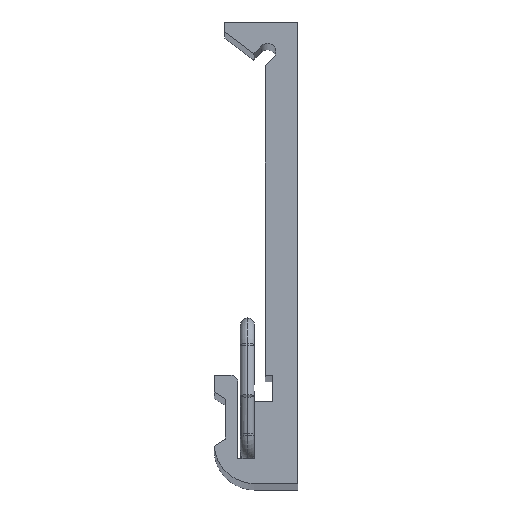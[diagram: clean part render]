
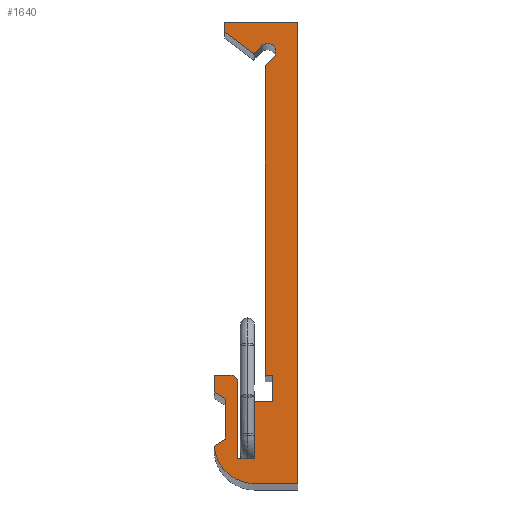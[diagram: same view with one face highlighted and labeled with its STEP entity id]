
A CAD part, top view. The second image highlights one B-rep face of the part: STEP entity #1640.
In plain terms, the highlighted planar face has unit normal (0, 0, 1).
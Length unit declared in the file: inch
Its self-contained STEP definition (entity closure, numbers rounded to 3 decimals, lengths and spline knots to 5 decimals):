
#70=DIRECTION('',(1.,0.,0.));
#71=VECTOR('',#70,0.183);
#72=CARTESIAN_POINT('',(-0.125,0.,15.7485));
#73=LINE('',#72,#71);
#78=CARTESIAN_POINT('',(-0.125,0.17,15.7485));
#79=DIRECTION('',(0.,0.,1.));
#80=DIRECTION('',(-0.997,-0.075,0.));
#81=AXIS2_PLACEMENT_3D('',#78,#79,#80);
#83=DIRECTION('',(-0.848,-0.53,0.));
#84=VECTOR('',#83,0.05604);
#85=CARTESIAN_POINT('',(-0.247,0.187,15.7485));
#86=LINE('',#85,#84);
#87=DIRECTION('',(0.,-1.,0.));
#88=VECTOR('',#87,0.168);
#89=CARTESIAN_POINT('',(-0.247,0.355,15.7485));
#90=LINE('',#89,#88);
#91=DIRECTION('',(0.848,-0.53,0.));
#92=VECTOR('',#91,0.0566);
#93=CARTESIAN_POINT('',(-0.295,0.385,15.7485));
#94=LINE('',#93,#92);
#95=DIRECTION('',(0.,-1.,0.));
#96=VECTOR('',#95,0.07);
#97=CARTESIAN_POINT('',(-0.295,0.455,15.7485));
#98=LINE('',#97,#96);
#99=DIRECTION('',(-1.,0.,0.));
#100=VECTOR('',#99,0.07);
#101=CARTESIAN_POINT('',(-0.225,0.455,15.7485));
#102=LINE('',#101,#100);
#103=CARTESIAN_POINT('',(-0.225,0.425,15.7485));
#104=DIRECTION('',(0.,0.,1.));
#105=DIRECTION('',(1.,0.,0.));
#106=AXIS2_PLACEMENT_3D('',#103,#104,#105);
#108=DIRECTION('',(0.,1.,0.));
#109=VECTOR('',#108,0.32);
#110=CARTESIAN_POINT('',(-0.195,0.105,15.7485));
#111=LINE('',#110,#109);
#112=DIRECTION('',(-1.,0.,0.));
#113=VECTOR('',#112,0.07);
#114=CARTESIAN_POINT('',(-0.125,0.105,15.7485));
#115=LINE('',#114,#113);
#116=DIRECTION('',(0.,-1.,0.));
#117=VECTOR('',#116,0.24);
#118=CARTESIAN_POINT('',(-0.125,0.345,15.7485));
#119=LINE('',#118,#117);
#120=DIRECTION('',(-1.,0.,0.));
#121=VECTOR('',#120,0.077);
#122=CARTESIAN_POINT('',(-0.048,0.345,15.7485));
#123=LINE('',#122,#121);
#124=DIRECTION('',(0.,-1.,0.));
#125=VECTOR('',#124,0.11);
#126=CARTESIAN_POINT('',(-0.048,0.455,15.7485));
#127=LINE('',#126,#125);
#128=DIRECTION('',(1.,0.,0.));
#129=VECTOR('',#128,0.032);
#130=CARTESIAN_POINT('',(-0.08,0.455,15.7485));
#131=LINE('',#130,#129);
#132=DIRECTION('',(0.,-1.,0.));
#133=VECTOR('',#132,1.3025);
#134=CARTESIAN_POINT('',(-0.08,1.7575,15.7485));
#135=LINE('',#134,#133);
#136=DIRECTION('',(-0.707,-0.707,0.));
#137=VECTOR('',#136,0.04914);
#138=CARTESIAN_POINT('',(-0.04525,1.79225,15.7485));
#139=LINE('',#138,#137);
#140=CARTESIAN_POINT('',(-0.07,1.817,15.7485));
#141=DIRECTION('',(0.,0.,-1.));
#142=DIRECTION('',(-0.707,0.707,0.));
#143=AXIS2_PLACEMENT_3D('',#140,#141,#142);
#145=DIRECTION('',(0.707,0.707,0.));
#146=VECTOR('',#145,0.0464);
#147=CARTESIAN_POINT('',(-0.12756,1.80894,15.7485));
#148=LINE('',#147,#146);
#149=DIRECTION('',(0.796,-0.605,0.));
#150=VECTOR('',#149,0.15379);
#151=CARTESIAN_POINT('',(-0.25,1.902,15.7485));
#152=LINE('',#151,#150);
#153=DIRECTION('',(0.,-1.,0.));
#154=VECTOR('',#153,0.04);
#155=CARTESIAN_POINT('',(-0.25,1.942,15.7485));
#156=LINE('',#155,#154);
#161=DIRECTION('',(-1.,0.,0.));
#162=VECTOR('',#161,0.308);
#163=CARTESIAN_POINT('',(0.058,1.942,15.7485));
#164=LINE('',#163,#162);
#165=DIRECTION('',(0.,-1.,0.));
#166=VECTOR('',#165,1.942);
#167=CARTESIAN_POINT('',(0.058,1.942,15.7485));
#168=LINE('',#167,#166);
#1331=CARTESIAN_POINT('',(-0.12756,1.80894,
15.7485));
#1332=CARTESIAN_POINT('',(-0.09475,1.84175,
15.7485));
#1333=VERTEX_POINT('',#1331);
#1334=VERTEX_POINT('',#1332);
#1335=CARTESIAN_POINT('',(-0.04525,1.79225,
15.7485));
#1336=VERTEX_POINT('',#1335);
#1337=CARTESIAN_POINT('',(-0.08,1.7575,15.7485));
#1338=VERTEX_POINT('',#1337);
#1339=CARTESIAN_POINT('',(-0.08,0.455,15.7485));
#1340=VERTEX_POINT('',#1339);
#1341=CARTESIAN_POINT('',(-0.048,0.455,15.7485));
#1342=VERTEX_POINT('',#1341);
#1343=CARTESIAN_POINT('',(-0.048,0.345,15.7485));
#1344=VERTEX_POINT('',#1343);
#1345=CARTESIAN_POINT('',(-0.125,0.345,15.7485));
#1346=VERTEX_POINT('',#1345);
#1347=CARTESIAN_POINT('',(-0.125,0.105,15.7485));
#1348=VERTEX_POINT('',#1347);
#1349=CARTESIAN_POINT('',(-0.195,0.105,15.7485));
#1350=VERTEX_POINT('',#1349);
#1351=CARTESIAN_POINT('',(-0.195,0.425,15.7485));
#1352=VERTEX_POINT('',#1351);
#1353=CARTESIAN_POINT('',(-0.225,0.455,15.7485));
#1354=VERTEX_POINT('',#1353);
#1355=CARTESIAN_POINT('',(-0.295,0.455,15.7485));
#1356=VERTEX_POINT('',#1355);
#1357=CARTESIAN_POINT('',(-0.295,0.385,15.7485));
#1358=VERTEX_POINT('',#1357);
#1359=CARTESIAN_POINT('',(-0.247,0.355,15.7485));
#1360=VERTEX_POINT('',#1359);
#1361=CARTESIAN_POINT('',(-0.247,0.187,15.7485));
#1362=VERTEX_POINT('',#1361);
#1363=CARTESIAN_POINT('',(-0.29452,0.1573,
15.7485));
#1364=VERTEX_POINT('',#1363);
#1365=CARTESIAN_POINT('',(-0.125,0.,15.7485));
#1366=VERTEX_POINT('',#1365);
#1367=CARTESIAN_POINT('',(-0.25,1.942,15.7485));
#1368=CARTESIAN_POINT('',(-0.25,1.902,15.7485));
#1369=VERTEX_POINT('',#1367);
#1370=VERTEX_POINT('',#1368);
#1479=CARTESIAN_POINT('',(0.058,1.942,15.7485));
#1480=CARTESIAN_POINT('',(0.058,0.,15.7485));
#1481=VERTEX_POINT('',#1479);
#1482=VERTEX_POINT('',#1480);
#1590=CARTESIAN_POINT('',(0.,0.,15.7485));
#1591=DIRECTION('',(0.,0.,1.));
#1592=DIRECTION('',(1.,0.,0.));
#1593=AXIS2_PLACEMENT_3D('',#1590,#1591,#1592);
#1594=PLANE('',#1593);
#1596=ORIENTED_EDGE('',*,*,#1595,.F.);
#1598=ORIENTED_EDGE('',*,*,#1597,.T.);
#1599=ORIENTED_EDGE('',*,*,#1580,.F.);
#1601=ORIENTED_EDGE('',*,*,#1600,.F.);
#1603=ORIENTED_EDGE('',*,*,#1602,.F.);
#1605=ORIENTED_EDGE('',*,*,#1604,.F.);
#1607=ORIENTED_EDGE('',*,*,#1606,.F.);
#1609=ORIENTED_EDGE('',*,*,#1608,.F.);
#1611=ORIENTED_EDGE('',*,*,#1610,.F.);
#1613=ORIENTED_EDGE('',*,*,#1612,.F.);
#1615=ORIENTED_EDGE('',*,*,#1614,.F.);
#1617=ORIENTED_EDGE('',*,*,#1616,.F.);
#1619=ORIENTED_EDGE('',*,*,#1618,.F.);
#1621=ORIENTED_EDGE('',*,*,#1620,.F.);
#1623=ORIENTED_EDGE('',*,*,#1622,.F.);
#1625=ORIENTED_EDGE('',*,*,#1624,.F.);
#1627=ORIENTED_EDGE('',*,*,#1626,.F.);
#1629=ORIENTED_EDGE('',*,*,#1628,.F.);
#1631=ORIENTED_EDGE('',*,*,#1630,.F.);
#1633=ORIENTED_EDGE('',*,*,#1632,.F.);
#1635=ORIENTED_EDGE('',*,*,#1634,.F.);
#1637=ORIENTED_EDGE('',*,*,#1636,.F.);
#1638=EDGE_LOOP('',(#1596,#1598,#1599,#1601,#1603,#1605,#1607,#1609,#1611,#1613,
#1615,#1617,#1619,#1621,#1623,#1625,#1627,#1629,#1631,#1633,#1635,#1637));
#1639=FACE_OUTER_BOUND('',#1638,.F.);
#1640=ADVANCED_FACE('',(#1639),#1594,.T.);
#82=CIRCLE('',#81,0.17);
#107=CIRCLE('',#106,0.03);
#144=CIRCLE('',#143,0.035);
#1580=EDGE_CURVE('',#1366,#1482,#73,.T.);
#1595=EDGE_CURVE('',#1481,#1369,#164,.T.);
#1597=EDGE_CURVE('',#1481,#1482,#168,.T.);
#1600=EDGE_CURVE('',#1364,#1366,#82,.T.);
#1602=EDGE_CURVE('',#1362,#1364,#86,.T.);
#1604=EDGE_CURVE('',#1360,#1362,#90,.T.);
#1606=EDGE_CURVE('',#1358,#1360,#94,.T.);
#1608=EDGE_CURVE('',#1356,#1358,#98,.T.);
#1610=EDGE_CURVE('',#1354,#1356,#102,.T.);
#1612=EDGE_CURVE('',#1352,#1354,#107,.T.);
#1614=EDGE_CURVE('',#1350,#1352,#111,.T.);
#1616=EDGE_CURVE('',#1348,#1350,#115,.T.);
#1618=EDGE_CURVE('',#1346,#1348,#119,.T.);
#1620=EDGE_CURVE('',#1344,#1346,#123,.T.);
#1622=EDGE_CURVE('',#1342,#1344,#127,.T.);
#1624=EDGE_CURVE('',#1340,#1342,#131,.T.);
#1626=EDGE_CURVE('',#1338,#1340,#135,.T.);
#1628=EDGE_CURVE('',#1336,#1338,#139,.T.);
#1630=EDGE_CURVE('',#1334,#1336,#144,.T.);
#1632=EDGE_CURVE('',#1333,#1334,#148,.T.);
#1634=EDGE_CURVE('',#1370,#1333,#152,.T.);
#1636=EDGE_CURVE('',#1369,#1370,#156,.T.);
